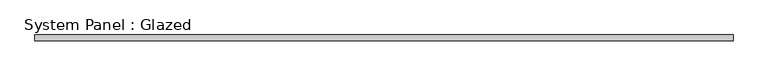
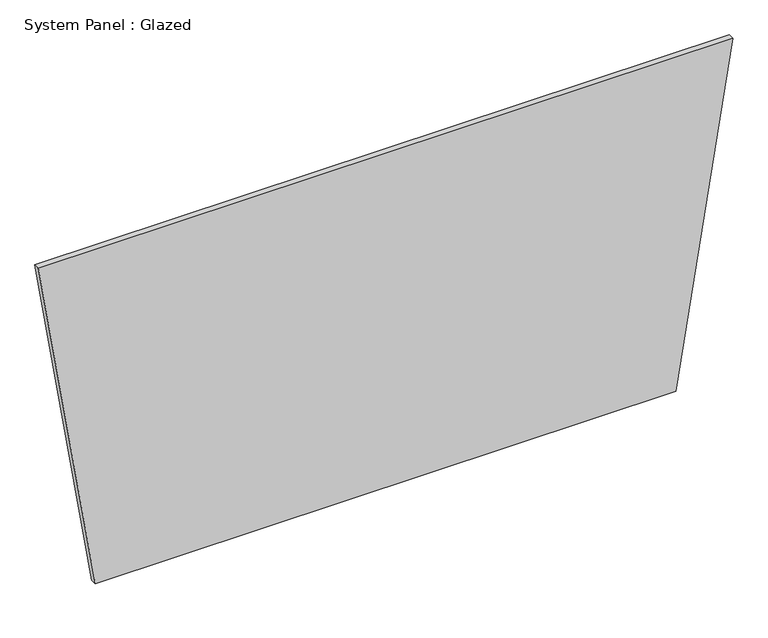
"""IFC4 building model written with IfcOpenShell, lengths in millimetres: plate geometry, System Panel : Glazed."""

from ifc_helpers import new_model, si_unit, frame, origin, place, context, project, spatial, polyline, outline, extrude, source, transform, mapped, element, save


def system_panel_glazed_d746c46d(model_context):
    return source(origin(), model_context, "Body", "SweptSolid", [
        extrude(outline(polyline([(0.0, -1236.0200164), (0.0, 1236.0200164), (1504.5018398, 1479.0225147), (1504.5018398, -1479.0225147), (0.0, -1236.0200164)])), frame((0.0, -44.45, 0.0), z_axis=(0.0, 1.0, 0.0), x_axis=(0.0, 0.0, 1.0)), (0.0, 0.0, 1.0), 25.4),
    ])


if __name__ == "__main__":
    model = new_model("IFC4")
    model_context = context("Model", 3, world=origin())
    ifc_project = project(units=[si_unit("LENGTHUNIT", "METRE", prefix="MILLI")], contexts=[model_context])
    site = spatial("IfcSite", under=ifc_project)
    building = spatial("IfcBuilding", under=site)
    placement = place(None, origin())
    system_panel_glazed_shape = system_panel_glazed_d746c46d(model_context)
    element("IfcPlate", 1, ObjectType="System Panel : Glazed", at=placement, inside=building, context=model_context, shape_type="MappedRepresentation", body=[
        mapped(system_panel_glazed_shape, transform((0.0, 0.0, 0.0), x_axis=(1.0, 0.0, 0.0), y_axis=(0.0, 1.0, 0.0), z_axis=(0.0, 0.0, 1.0))),
    ])
    save(model, "model.ifc")
